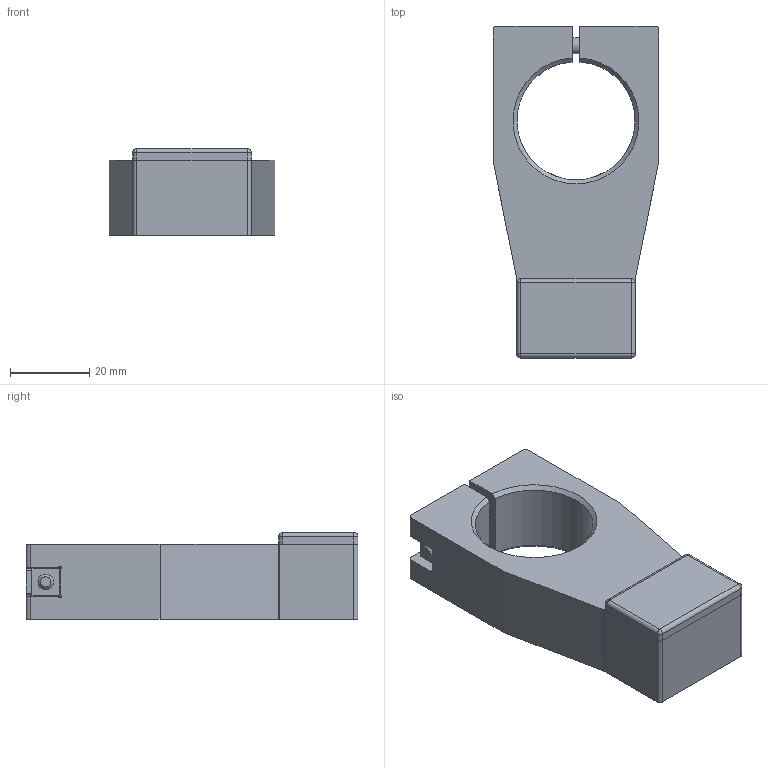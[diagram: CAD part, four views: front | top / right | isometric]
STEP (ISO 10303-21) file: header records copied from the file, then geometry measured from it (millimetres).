
FILE_DESCRIPTION (( 'STEP AP214' ), '1' );
FILE_NAME ('2984.STEP', '2024-10-04T19:41:52', ( '' ), ( '' ), 'SwSTEP 2.0', 'SolidWorks 2022', '' );
FILE_SCHEMA (( 'AUTOMOTIVE_DESIGN' ));
Length unit declared in the file: millimetre
Products named in the file (1): 2984
Bounding box: 42 x 84 x 22 mm (x, y, z)
Volume: 42489.7 mm3; surface area: 16326.1 mm2
Topology: 5 solids, 5 shells, 262 faces, 623 edges, 403 vertices
Faces by surface type: bspline 85, cylinder 81, plane 73, cone 15, torus 4, sphere 4
Full cylindrical faces by diameter (mm): 3.3 x1, 4 x1, 4.1 x8, 4.3 x5, 4.5 x2, 4.9 x4, 5.5 x4, 7 x2, 8 x1
Entity records: 18005 total; most frequent: CARTESIAN_POINT 12798, ORIENTED_EDGE 1140, DIRECTION 755, EDGE_CURVE 570, VERTEX_POINT 399, EDGE_LOOP 359, AXIS2_PLACEMENT_3D 309, FACE_OUTER_BOUND 294
